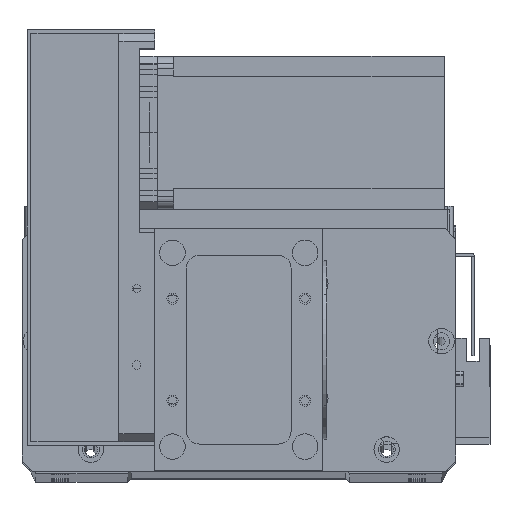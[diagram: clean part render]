
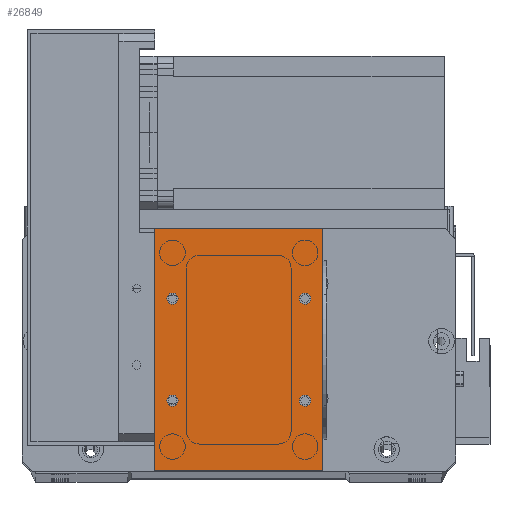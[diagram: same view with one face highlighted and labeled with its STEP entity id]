
A CAD part, top view. The second image highlights one B-rep face of the part: STEP entity #26849.
In plain terms, the highlighted planar face has unit normal (0, 0, 1).
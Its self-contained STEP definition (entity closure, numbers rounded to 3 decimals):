
#90 = FACE_BOUND ( 'NONE', #31343, .T. ) ;
#635 = VERTEX_POINT ( 'NONE', #27735 ) ;
#668 = CARTESIAN_POINT ( 'NONE',  ( 59., 67.5, 2. ) ) ;
#1017 = CIRCLE ( 'NONE', #2088, 2.25 ) ;
#1268 = DIRECTION ( 'NONE',  ( 1., 0., 0. ) ) ;
#2088 = AXIS2_PLACEMENT_3D ( 'NONE', #26808, #11580, #29403 ) ;
#2272 = EDGE_CURVE ( 'NONE', #10071, #4368, #3305, .T. ) ;
#2367 = CIRCLE ( 'NONE', #25508, 2.25 ) ;
#2461 = DIRECTION ( 'NONE',  ( 1., 0., 0. ) ) ;
#2671 = ORIENTED_EDGE ( 'NONE', *, *, #22615, .F. ) ;
#2846 = CARTESIAN_POINT ( 'NONE',  ( 9.25, 27.5, 2. ) ) ;
#3237 = DIRECTION ( 'NONE',  ( 1., 0., 0. ) ) ;
#3305 = CIRCLE ( 'NONE', #16036, 2.25 ) ;
#3549 = CIRCLE ( 'NONE', #16366, 2.25 ) ;
#3624 = EDGE_CURVE ( 'NONE', #4976, #11805, #3998, .T. ) ;
#3692 = EDGE_CURVE ( 'NONE', #635, #15681, #14355, .T. ) ;
#3998 = LINE ( 'NONE', #16935, #9989 ) ;
#4214 = VERTEX_POINT ( 'NONE', #20682 ) ;
#4368 = VERTEX_POINT ( 'NONE', #21333 ) ;
#4784 = CARTESIAN_POINT ( 'NONE',  ( 7., 67.5, 2. ) ) ;
#4917 = CARTESIAN_POINT ( 'NONE',  ( 61.25, 27.5, 2. ) ) ;
#4976 = VERTEX_POINT ( 'NONE', #29202 ) ;
#5251 = VERTEX_POINT ( 'NONE', #14918 ) ;
#5857 = CIRCLE ( 'NONE', #23398, 2.25 ) ;
#6079 = ORIENTED_EDGE ( 'NONE', *, *, #13368, .T. ) ;
#6097 = DIRECTION ( 'NONE',  ( -1., 0., 0. ) ) ;
#6388 = CARTESIAN_POINT ( 'NONE',  ( 7., 67.5, 2. ) ) ;
#7347 = DIRECTION ( 'NONE',  ( 1., 0., 0. ) ) ;
#7660 = FACE_BOUND ( 'NONE', #24524, .T. ) ;
#7942 = VERTEX_POINT ( 'NONE', #30924 ) ;
#8434 = CIRCLE ( 'NONE', #16982, 2.25 ) ;
#8840 = ORIENTED_EDGE ( 'NONE', *, *, #24204, .F. ) ;
#8961 = DIRECTION ( 'NONE',  ( 1., 0., 0. ) ) ;
#9065 = EDGE_LOOP ( 'NONE', ( #25287, #2671 ) ) ;
#9246 = EDGE_CURVE ( 'NONE', #7942, #19554, #8434, .T. ) ;
#9401 = CARTESIAN_POINT ( 'NONE',  ( 66., 95., 2. ) ) ;
#9461 = VECTOR ( 'NONE', #16606, 1000. ) ;
#9989 = VECTOR ( 'NONE', #22025, 1000. ) ;
#10071 = VERTEX_POINT ( 'NONE', #2846 ) ;
#10555 = VERTEX_POINT ( 'NONE', #4917 ) ;
#11571 = ORIENTED_EDGE ( 'NONE', *, *, #30070, .T. ) ;
#11580 = DIRECTION ( 'NONE',  ( 0., 0., 1. ) ) ;
#11805 = VERTEX_POINT ( 'NONE', #9401 ) ;
#12265 = CARTESIAN_POINT ( 'NONE',  ( 59., 67.5, 2. ) ) ;
#12486 = EDGE_CURVE ( 'NONE', #29146, #5251, #27461, .T. ) ;
#12509 = DIRECTION ( 'NONE',  ( 0., 0., 1. ) ) ;
#12626 = DIRECTION ( 'NONE',  ( 0., 0., 1. ) ) ;
#13368 = EDGE_CURVE ( 'NONE', #15681, #4976, #25441, .T. ) ;
#13532 = VECTOR ( 'NONE', #1268, 1000. ) ;
#13652 = FACE_OUTER_BOUND ( 'NONE', #29695, .T. ) ;
#14355 = LINE ( 'NONE', #19831, #27100 ) ;
#14423 = FACE_BOUND ( 'NONE', #22785, .T. ) ;
#14801 = DIRECTION ( 'NONE',  ( 1., 0., 0. ) ) ;
#14918 = CARTESIAN_POINT ( 'NONE',  ( 9.25, 67.5, 2. ) ) ;
#14976 = CARTESIAN_POINT ( 'NONE',  ( 4.75, 67.5, 2. ) ) ;
#15681 = VERTEX_POINT ( 'NONE', #25412 ) ;
#16036 = AXIS2_PLACEMENT_3D ( 'NONE', #27748, #12509, #30309 ) ;
#16366 = AXIS2_PLACEMENT_3D ( 'NONE', #668, #18492, #3237 ) ;
#16544 = CARTESIAN_POINT ( 'NONE',  ( 0., 0., 2. ) ) ;
#16606 = DIRECTION ( 'NONE',  ( -1., 0., 0. ) ) ;
#16935 = CARTESIAN_POINT ( 'NONE',  ( 66., 0., 2. ) ) ;
#16982 = AXIS2_PLACEMENT_3D ( 'NONE', #12265, #30050, #14801 ) ;
#17715 = DIRECTION ( 'NONE',  ( 0., 0., 1. ) ) ;
#18492 = DIRECTION ( 'NONE',  ( 0., 0., 1. ) ) ;
#18812 = PLANE ( 'NONE',  #31790 ) ;
#19456 = ORIENTED_EDGE ( 'NONE', *, *, #12486, .F. ) ;
#19554 = VERTEX_POINT ( 'NONE', #24030 ) ;
#19831 = CARTESIAN_POINT ( 'NONE',  ( 0., 0., 2. ) ) ;
#20656 = AXIS2_PLACEMENT_3D ( 'NONE', #6388, #24186, #8961 ) ;
#20682 = CARTESIAN_POINT ( 'NONE',  ( 56.75, 27.5, 2. ) ) ;
#21333 = CARTESIAN_POINT ( 'NONE',  ( 4.75, 27.5, 2. ) ) ;
#21368 = DIRECTION ( 'NONE',  ( 0., 0., -1. ) ) ;
#22025 = DIRECTION ( 'NONE',  ( 0., 1., 0. ) ) ;
#22191 = CIRCLE ( 'NONE', #20656, 2.25 ) ;
#22348 = DIRECTION ( 'NONE',  ( 0., -1., 0. ) ) ;
#22569 = DIRECTION ( 'NONE',  ( 0., 0., 1. ) ) ;
#22615 = EDGE_CURVE ( 'NONE', #4368, #10071, #2367, .T. ) ;
#22785 = EDGE_LOOP ( 'NONE', ( #27801, #32584 ) ) ;
#22805 = EDGE_CURVE ( 'NONE', #19554, #7942, #3549, .T. ) ;
#23168 = ORIENTED_EDGE ( 'NONE', *, *, #3624, .T. ) ;
#23398 = AXIS2_PLACEMENT_3D ( 'NONE', #27861, #12626, #30416 ) ;
#23907 = EDGE_CURVE ( 'NONE', #5251, #29146, #22191, .T. ) ;
#24030 = CARTESIAN_POINT ( 'NONE',  ( 56.75, 67.5, 2. ) ) ;
#24186 = DIRECTION ( 'NONE',  ( 0., 0., 1. ) ) ;
#24204 = EDGE_CURVE ( 'NONE', #10555, #4214, #5857, .T. ) ;
#24524 = EDGE_LOOP ( 'NONE', ( #8840, #27616 ) ) ;
#25027 = EDGE_CURVE ( 'NONE', #4214, #10555, #1017, .T. ) ;
#25287 = ORIENTED_EDGE ( 'NONE', *, *, #2272, .F. ) ;
#25412 = CARTESIAN_POINT ( 'NONE',  ( 0., 0., 2. ) ) ;
#25441 = LINE ( 'NONE', #16544, #13532 ) ;
#25508 = AXIS2_PLACEMENT_3D ( 'NONE', #32952, #17715, #2461 ) ;
#26361 = CARTESIAN_POINT ( 'NONE',  ( 0., 0., 2. ) ) ;
#26368 = FACE_BOUND ( 'NONE', #9065, .T. ) ;
#26808 = CARTESIAN_POINT ( 'NONE',  ( 59., 27.5, 2. ) ) ;
#26849 = ADVANCED_FACE ( 'NONE', ( #90, #14423, #7660, #26368, #13652 ), #18812, .F. ) ;
#27100 = VECTOR ( 'NONE', #22348, 1000. ) ;
#27461 = CIRCLE ( 'NONE', #29782, 2.25 ) ;
#27616 = ORIENTED_EDGE ( 'NONE', *, *, #25027, .F. ) ;
#27735 = CARTESIAN_POINT ( 'NONE',  ( 0., 95., 2. ) ) ;
#27748 = CARTESIAN_POINT ( 'NONE',  ( 7., 27.5, 2. ) ) ;
#27801 = ORIENTED_EDGE ( 'NONE', *, *, #9246, .F. ) ;
#27861 = CARTESIAN_POINT ( 'NONE',  ( 59., 27.5, 2. ) ) ;
#28183 = LINE ( 'NONE', #29312, #9461 ) ;
#28479 = ORIENTED_EDGE ( 'NONE', *, *, #23907, .F. ) ;
#28717 = ORIENTED_EDGE ( 'NONE', *, *, #3692, .T. ) ;
#29146 = VERTEX_POINT ( 'NONE', #14976 ) ;
#29202 = CARTESIAN_POINT ( 'NONE',  ( 66., 0., 2. ) ) ;
#29312 = CARTESIAN_POINT ( 'NONE',  ( 0., 95., 2. ) ) ;
#29403 = DIRECTION ( 'NONE',  ( 1., 0., 0. ) ) ;
#29695 = EDGE_LOOP ( 'NONE', ( #28717, #6079, #23168, #11571 ) ) ;
#29782 = AXIS2_PLACEMENT_3D ( 'NONE', #4784, #22569, #7347 ) ;
#30050 = DIRECTION ( 'NONE',  ( 0., 0., 1. ) ) ;
#30070 = EDGE_CURVE ( 'NONE', #11805, #635, #28183, .T. ) ;
#30309 = DIRECTION ( 'NONE',  ( 1., 0., 0. ) ) ;
#30416 = DIRECTION ( 'NONE',  ( 1., 0., 0. ) ) ;
#30924 = CARTESIAN_POINT ( 'NONE',  ( 61.25, 67.5, 2. ) ) ;
#31343 = EDGE_LOOP ( 'NONE', ( #28479, #19456 ) ) ;
#31790 = AXIS2_PLACEMENT_3D ( 'NONE', #26361, #21368, #6097 ) ;
#32584 = ORIENTED_EDGE ( 'NONE', *, *, #22805, .F. ) ;
#32952 = CARTESIAN_POINT ( 'NONE',  ( 7., 27.5, 2. ) ) ;
